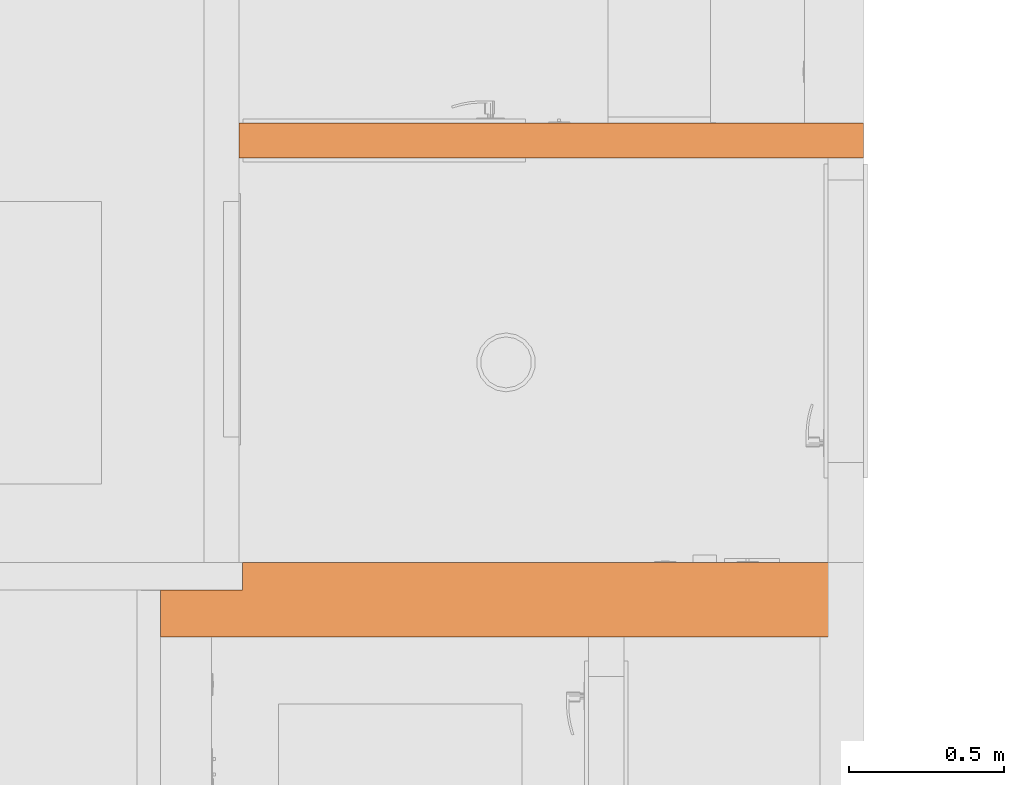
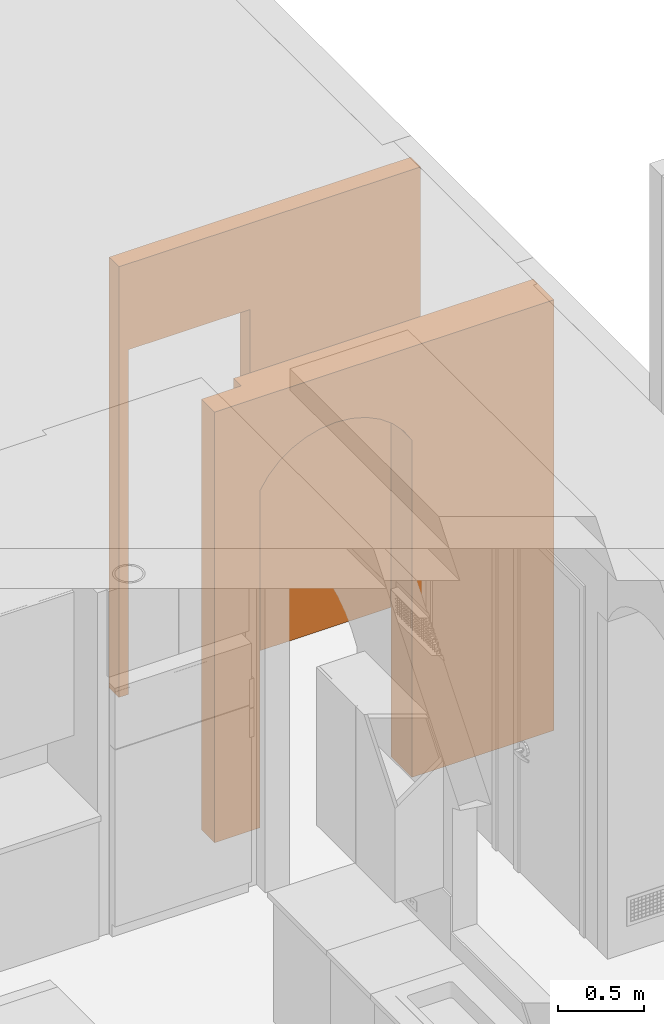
# One storey, part 93 of 103: 2 proxies.
"""IFC2X3 building model written with IfcOpenShell, lengths in inches."""

from ifc_helpers import new_model, entity, si_unit, converted_unit, derived_unit, money_unit, direction, frame, origin_with_axes, place, context, subcontext, project, spatial, faceted_brep, material, type_object, element, save


model = new_model("IFC2X3")

# Units and contexts
model_context = context("Model", 3, precision=0.00039370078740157, world=origin_with_axes(), true_north=direction((0.0, 1.0)))
plan_context = context("Plan", 3, precision=0.00039370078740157, world=origin_with_axes(), true_north=direction((0.0, 1.0)))
body_context = subcontext(model_context, "Body", "Model", "MODEL_VIEW")
ifc_project = project(units=[converted_unit("LENGTHUNIT", "INCH", entity("IfcPositiveLengthMeasure", 0.0254), si_unit("LENGTHUNIT", "METRE"), dimensions=[1, 0, 0, 0, 0, 0, 0]), converted_unit("AREAUNIT", "SQUARE_FOOT", entity("IfcPositiveLengthMeasure", 0.09290304), si_unit("AREAUNIT", "SQUARE_METRE"), dimensions=[2, 0, 0, 0, 0, 0, 0]), si_unit("PLANEANGLEUNIT", "RADIAN"), si_unit("SOLIDANGLEUNIT", "STERADIAN"), money_unit("USD"), converted_unit("TIMEUNIT", "Year", entity("IfcTimeMeasure", 31557600.0), si_unit("TIMEUNIT", "SECOND"), dimensions=[0, 0, 1, 0, 0, 0, 0]), si_unit("MASSUNIT", "GRAM", prefix="KILO"), si_unit("THERMODYNAMICTEMPERATUREUNIT", "DEGREE_CELSIUS"), si_unit("LUMINOUSINTENSITYUNIT", "LUMEN"), si_unit("ENERGYUNIT", "JOULE", prefix="MEGA"), derived_unit("SPECIFICHEATCAPACITYUNIT", [(si_unit("ENERGYUNIT", "JOULE"), 1), (si_unit("MASSUNIT", "GRAM", prefix="KILO"), -1), (si_unit("THERMODYNAMICTEMPERATUREUNIT", "KELVIN"), -1)])], contexts=[model_context, plan_context])

# Site, building, storey
site_placement = place(None, origin_with_axes())
site = spatial("IfcSite", under=ifc_project, at=site_placement, Name="Site", CompositionType="ELEMENT")
building_placement = place(site_placement, origin_with_axes())
building = spatial("IfcBuilding", under=site, at=building_placement, Name="Building", CompositionType="ELEMENT")
storey_placement = place(building_placement, frame((0.0, 0.0, 127.9999999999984), z_axis=(0.0, 0.0, 1.0), x_axis=(1.0, 0.0, 0.0)))
storey = spatial("IfcBuildingStorey", under=building, at=storey_placement, Name="Second Floor", CompositionType="ELEMENT", Elevation=128.0)

# Proxies
ifc_material = material(Name="Generic - Structural")
building_element_proxy_type_1 = type_object("IfcBuildingElementProxyType", Name="Generic - Structural 4 1/2\"", PredefinedType="NOTDEFINED")
proxy_1_placement = place(storey_placement, frame((239.9999999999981, 456.9999999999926, 0.0), z_axis=(0.0, 0.0, 1.0), x_axis=(-1.0, 0.0, 0.0)))
element("IfcBuildingElementProxy", 1, at=proxy_1_placement, inside=storey, type_object=building_element_proxy_type_1, material=ifc_material, Name="SW - 131", context=body_context, shape_type="Brep", body=[
    faceted_brep([(72.49999999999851, 0.0, 95.9999999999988), (72.49999999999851, 0.0, 0.0), (74.99999999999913, 0.0, 0.0), (74.99999999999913, 0.0, 119.9999999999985), (-4.499999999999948, 0.0, 119.9999999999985), (-4.499999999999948, 0.0, 0.0), (40.49999999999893, 0.0, 0.0), (40.49999999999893, 0.0, 95.9999999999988), (72.49999999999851, 4.499999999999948, 95.9999999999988), (72.49999999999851, 4.499999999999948, 0.0), (74.99999999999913, 4.499999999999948, 0.0), (74.99999999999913, 4.499999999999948, 119.9999999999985), (-4.499999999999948, 4.499999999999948, 119.9999999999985), (-4.499999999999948, 4.499999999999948, 0.0), (40.49999999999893, 4.499999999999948, 0.0), (40.49999999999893, 4.499999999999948, 95.9999999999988)], [[[0, 1, 2, 3, 4, 5, 6, 7]], [[1, 0, 8, 9]], [[1, 9, 10, 2]], [[3, 2, 10, 11]], [[11, 12, 4, 3]], [[4, 12, 13, 5]], [[14, 6, 5, 13]], [[7, 6, 14, 15]], [[0, 7, 15, 8]], [[15, 14, 13, 12, 11, 10, 9, 8]]]),
])
building_element_proxy_type_2 = type_object("IfcBuildingElementProxyType", Name="Generic - Structural 9 1/2\"", PredefinedType="NOTDEFINED")
proxy_2_placement = place(storey_placement, frame((239.9999999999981, 401.0009092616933, 0.0), z_axis=(0.0, 0.0, 1.0), x_axis=(-1.0, 0.0, 0.0)))
element("IfcBuildingElementProxy", 2, at=proxy_2_placement, inside=storey, type_object=building_element_proxy_type_2, material=ifc_material, Name="SW - 108", context=body_context, shape_type="Brep", body=[
    faceted_brep([(72.9999999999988, 0.0, 93.99999999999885), (72.99999999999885, -2.425467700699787e-07, 0.0), (74.5629921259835, -2.474383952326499e-07, 0.0), (74.5629921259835, -2.474383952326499e-07, 119.9999999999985), (-4.499999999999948, 0.0, 119.9999999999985), (-4.499999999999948, 0.0, 0.0), (32.99999999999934, -1.173613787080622e-07, 0.0), (32.99999999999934, 0.0, 93.99999999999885), (35.23474324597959, 0.0, 97.41074183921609), (38.044418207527, 0.0, 100.3659006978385), (41.33809621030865, 0.0, 102.769839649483), (45.00918493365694, 0.0, 104.5447607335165), (48.93887802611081, 0.0, 105.6332227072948), (52.99999999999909, 0.0, 105.9999999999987), (57.06112197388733, 0.0, 105.6332227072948), (60.99081506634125, 0.0, 104.5447607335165), (64.66190378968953, 0.0, 102.769839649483), (67.95558179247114, 0.0, 100.3659006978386), (70.7652567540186, 0.0, 97.41074183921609), (72.9999999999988, 9.499999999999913, 93.99999999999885), (72.99999999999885, 9.499999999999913, 0.0), (84.99999999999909, 9.499999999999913, 0.0), (84.99999999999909, 3.499999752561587, 0.0), (74.5629921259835, 3.499999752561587, 0.0), (74.5629921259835, 3.499999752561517, 119.9999999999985), (84.99999999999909, 9.499999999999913, 119.9999999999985), (-4.499999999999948, 9.499999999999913, 119.9999999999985), (84.99999999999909, 3.499999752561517, 119.9999999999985), (-4.499999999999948, 9.499999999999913, 0.0), (32.99999999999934, 9.499999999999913, 0.0), (32.99999999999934, 9.499999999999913, 93.99999999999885), (35.23474324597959, 9.499999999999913, 97.41074183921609), (38.044418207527, 9.499999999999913, 100.3659006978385), (41.33809621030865, 9.499999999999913, 102.769839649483), (45.00918493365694, 9.499999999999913, 104.5447607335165), (48.93887802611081, 9.499999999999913, 105.6332227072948), (52.99999999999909, 9.499999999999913, 105.9999999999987), (57.06112197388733, 9.499999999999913, 105.6332227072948), (60.99081506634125, 9.499999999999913, 104.5447607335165), (64.66190378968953, 9.499999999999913, 102.769839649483), (67.95558179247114, 9.499999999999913, 100.3659006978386), (70.7652567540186, 9.499999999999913, 97.41074183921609)], [[[0, 1, 2, 3, 4, 5, 6, 7, 8, 9, 10, 11, 12, 13, 14, 15, 16, 17, 18]], [[1, 0, 19, 20]], [[1, 20, 21, 22, 23, 2]], [[24, 3, 2, 23]], [[25, 26, 4, 3, 24, 27]], [[5, 4, 26, 28]], [[29, 6, 5, 28]], [[7, 6, 29, 30]], [[8, 7, 30, 31]], [[9, 8, 31, 32]], [[10, 9, 32, 33]], [[11, 10, 33, 34]], [[12, 11, 34, 35]], [[13, 12, 35, 36]], [[14, 13, 36, 37]], [[15, 14, 37, 38]], [[16, 15, 38, 39]], [[17, 16, 39, 40]], [[18, 17, 40, 41]], [[0, 18, 41, 19]], [[30, 29, 28, 26, 25, 21, 20, 19, 41, 40, 39, 38, 37, 36, 35, 34, 33, 32, 31]], [[27, 22, 21, 25]], [[27, 24, 23, 22]]]),
])

save(model, "model.ifc")
